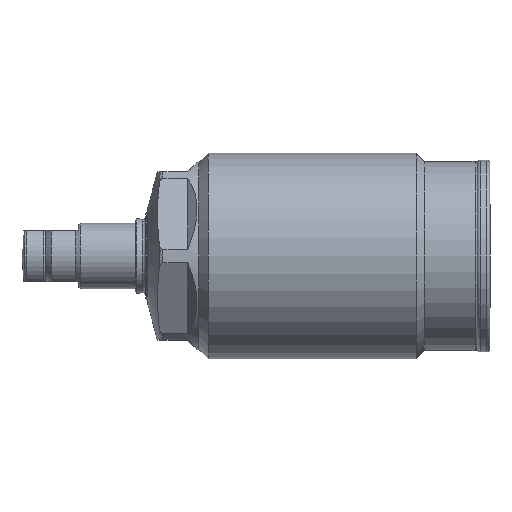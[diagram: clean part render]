
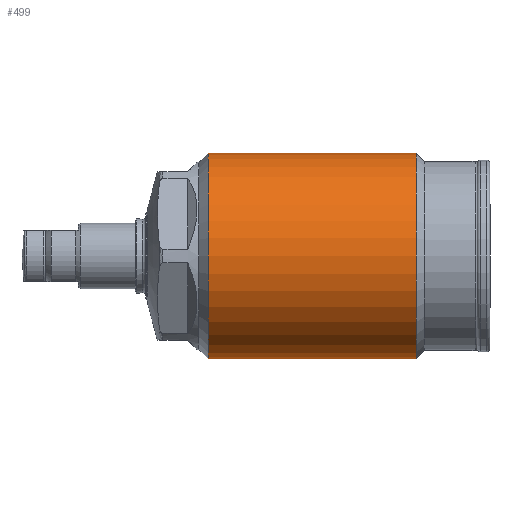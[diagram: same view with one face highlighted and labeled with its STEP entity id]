
A CAD part, left-side view. The second image highlights one B-rep face of the part: STEP entity #499.
In plain terms, the highlighted cylindrical face has radius 11 mm (diameter 22 mm), a partial arc.
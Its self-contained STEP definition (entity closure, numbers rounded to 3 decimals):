
#304=CYLINDRICAL_SURFACE('',#3002,11.);
#499=ADVANCED_FACE('',(#695),#304,.T.);
#695=FACE_OUTER_BOUND('',#867,.T.);
#867=EDGE_LOOP('',(#1669,#1670,#1671,#1672));
#980=LINE('',#4641,#1080);
#981=LINE('',#4642,#1081);
#1080=VECTOR('',#3584,1.);
#1081=VECTOR('',#3585,1.);
#1669=ORIENTED_EDGE('',*,*,#2301,.F.);
#1670=ORIENTED_EDGE('',*,*,#2391,.T.);
#1671=ORIENTED_EDGE('',*,*,#2302,.T.);
#1672=ORIENTED_EDGE('',*,*,#2392,.F.);
#2008=VERTEX_POINT('',#4633);
#2009=VERTEX_POINT('',#4635);
#2010=VERTEX_POINT('',#4639);
#2011=VERTEX_POINT('',#4640);
#2301=EDGE_CURVE('',#2011,#2009,#980,.T.);
#2302=EDGE_CURVE('',#2010,#2008,#981,.T.);
#2391=EDGE_CURVE('',#2011,#2010,#2643,.T.);
#2392=EDGE_CURVE('',#2009,#2008,#2644,.T.);
#2643=CIRCLE('',#2999,11.);
#2644=CIRCLE('',#3001,11.);
#2999=AXIS2_PLACEMENT_3D('',#4988,#3810,#3811);
#3001=AXIS2_PLACEMENT_3D('',#4990,#3814,#3815);
#3002=AXIS2_PLACEMENT_3D('',#4991,#3816,#3817);
#3584=DIRECTION('',(0.,1.,0.));
#3585=DIRECTION('',(0.,1.,0.));
#3810=DIRECTION('',(0.,1.,0.));
#3811=DIRECTION('',(0.,0.,1.));
#3814=DIRECTION('',(0.,1.,0.));
#3815=DIRECTION('',(0.,0.,1.));
#3816=DIRECTION('',(0.,1.,0.));
#3817=DIRECTION('',(0.,0.,1.));
#4633=CARTESIAN_POINT('',(0.,48.981,11.));
#4635=CARTESIAN_POINT('',(0.,48.981,-11.));
#4639=CARTESIAN_POINT('',(0.,26.781,11.));
#4640=CARTESIAN_POINT('',(0.,26.781,-11.));
#4641=CARTESIAN_POINT('',(0.,55.5,-11.));
#4642=CARTESIAN_POINT('',(0.,55.5,11.));
#4988=CARTESIAN_POINT('',(0.,26.781,0.));
#4990=CARTESIAN_POINT('',(0.,48.981,0.));
#4991=CARTESIAN_POINT('',(0.,55.5,0.));
